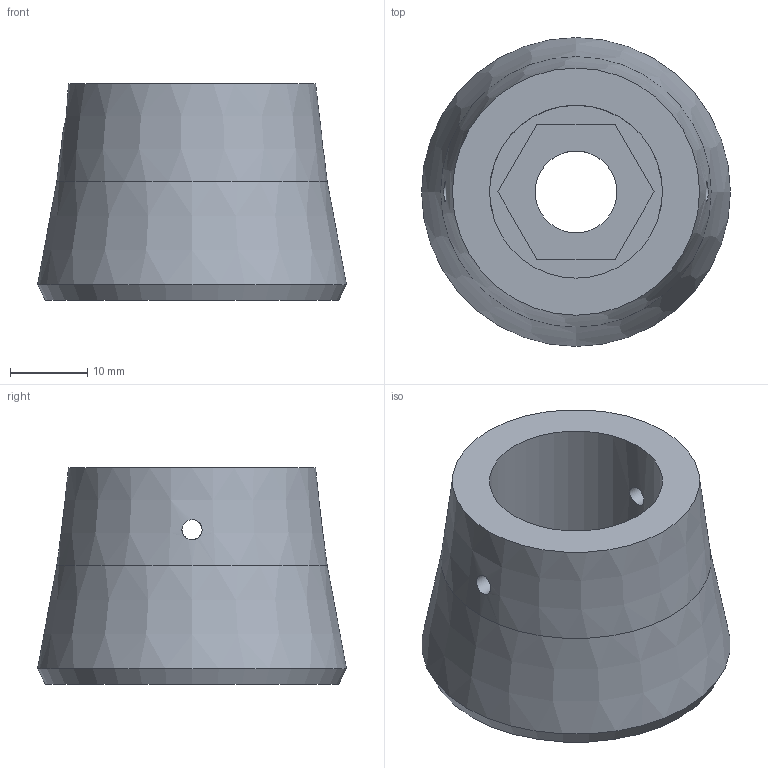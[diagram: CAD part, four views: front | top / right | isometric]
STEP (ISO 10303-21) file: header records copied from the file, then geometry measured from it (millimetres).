
FILE_DESCRIPTION(('Open CASCADE Model'),'2;1');
FILE_NAME('Open CASCADE Shape Model','2026-10-15T22:00:38',('Author'),( 'Open CASCADE'),'Open CASCADE STEP processor 7.9','Open CASCADE 7.9' ,'Unknown');
FILE_SCHEMA(('AUTOMOTIVE_DESIGN { 1 0 10303 214 1 1 1 1 }'));
Length unit declared in the file: millimetre
Products named in the file (1): Open CASCADE STEP translator 7.9 9
Bounding box: 40 x 40 x 28 mm (x, y, z)
Volume: 19655 mm3; surface area: 6767.4 mm2
Topology: 1 solids, 1 shells, 17 faces, 43 edges, 28 vertices
Faces by surface type: plane 10, cylinder 4, cone 3
Full cylindrical faces by diameter (mm): 2.6 x2, 10.6 x1, 22.4 x1
Entity records: 2038 total; most frequent: CARTESIAN_POINT 1201, DIRECTION 135, ORIENTED_EDGE 86, PCURVE 86, DEFINITIONAL_REPRESENTATION 86, LINE 79, VECTOR 79, EDGE_CURVE 43
